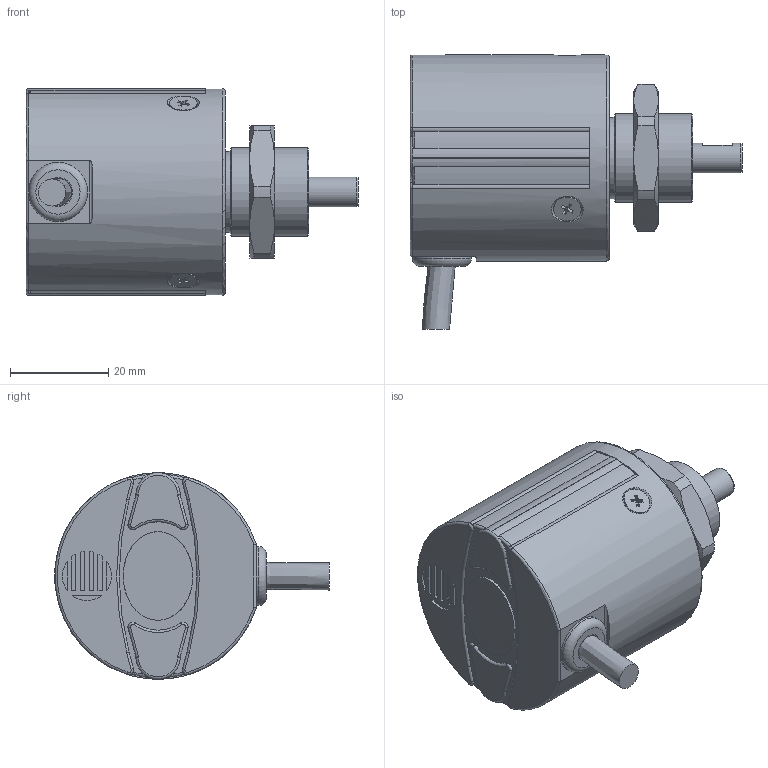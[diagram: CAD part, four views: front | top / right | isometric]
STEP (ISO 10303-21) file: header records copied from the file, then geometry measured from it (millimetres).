
FILE_DESCRIPTION( ( 'Unknown' ), '1' );
FILE_NAME( 'C:/Users/malfermoa/Desktop/step/EL40H.stp', 'Unknown', ( 'Unknown' ), ( 'Unknown' ), 'PSStep 15.0.49', 'Unknown', ' ' );
FILE_SCHEMA( ( 'AUTOMOTIVE_DESIGN { 1 0 10303 214 1 1 1 1 }' ) );
Length unit declared in the file: millimetre
Products named in the file (3): Assem1; 23220001B1_0; 41320005C1
Assembly tree (2 placements, depth 2):
  Assem1
    23220001B1_0
    41320005C1
Bounding box: 67.5 x 55.81 x 42 mm (x, y, z)
Volume: 30966 mm3; surface area: 22291.1 mm2
Topology: 2 solids, 5 shells, 291 faces, 711 edges, 460 vertices
Faces by surface type: plane 128, cylinder 91, cone 35, torus 28, bspline 8, extrusion 1
Full cylindrical faces by diameter (mm): 2.459 x6, 5.6 x3, 6 x8, 8.5 x2, 8.997 x1, 10 x1, 10.5 x2, 12 x1, 13 x2, 15 x1, 16.5 x1, 18 x2, 24 x1, 36 x1, 38.8 x2, 39 x1, 42 x1
Entity records: 14440 total; most frequent: CARTESIAN_POINT 5843, DIRECTION 1324, ORIENTED_EDGE 1194, EDGE_CURVE 597, AXIS2_PLACEMENT_3D 527, VERTEX_POINT 424, EDGE_LOOP 386, FACE_OUTER_BOUND 322
